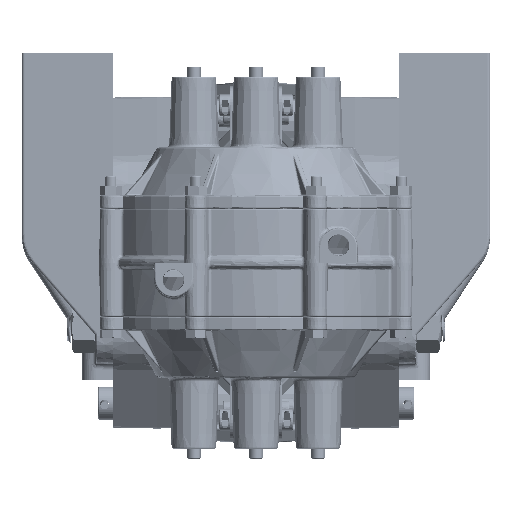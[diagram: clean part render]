
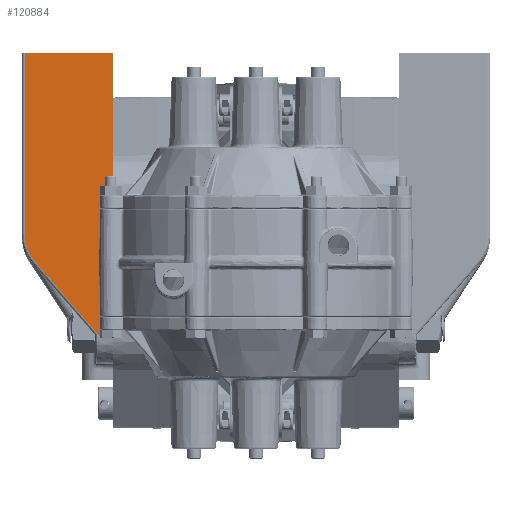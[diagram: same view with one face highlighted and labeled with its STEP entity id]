
A CAD part, left-side view. The second image highlights one B-rep face of the part: STEP entity #120884.
In plain terms, the highlighted planar face has unit normal (-1, 0.026, 0).
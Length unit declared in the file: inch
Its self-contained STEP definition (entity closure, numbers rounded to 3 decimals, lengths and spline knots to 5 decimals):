
#8764 = CARTESIAN_POINT ( 'NONE',  ( -4.59687, 3.227, -1.665 ) ) ;
#26428 = AXIS2_PLACEMENT_3D ( 'NONE', #297892, #91682, #183350 ) ;
#29919 = CARTESIAN_POINT ( 'NONE',  ( -4.544, 5.24614, 4.75 ) ) ;
#35411 = VECTOR ( 'NONE', #177763, 39.37008 ) ;
#36710 = DIRECTION ( 'NONE',  ( 0., 0., 1. ) ) ;
#37980 = VERTEX_POINT ( 'NONE', #130415 ) ;
#42072 = DIRECTION ( 'NONE',  ( -0.017, -0.656, -0.755 ) ) ;
#47081 = EDGE_CURVE ( 'NONE', #153771, #169684, #292290, .T. ) ;
#51711 = DIRECTION ( 'NONE',  ( 0., 0., -1. ) ) ;
#57333 = CARTESIAN_POINT ( 'NONE',  ( -4.544, 5.24614, 0.41521 ) ) ;
#59077 = CARTESIAN_POINT ( 'NONE',  ( -4.59622, 3.252, 4.75 ) ) ;
#72935 = EDGE_LOOP ( 'NONE', ( #254238, #140365, #120883, #263658, #106113, #267972 ) ) ;
#77745 = EDGE_CURVE ( 'NONE', #293860, #153771, #151091, .T. ) ;
#86133 = CARTESIAN_POINT ( 'NONE',  ( -4.59687, 3.227, 4.75 ) ) ;
#91682 = DIRECTION ( 'NONE',  ( -1., 0.026, 0. ) ) ;
#100660 = DIRECTION ( 'NONE',  ( -0.026, -1., 0. ) ) ;
#102080 = EDGE_CURVE ( 'NONE', #37980, #293860, #214931, .T. ) ;
#103939 = VERTEX_POINT ( 'NONE', #240362 ) ;
#106113 = ORIENTED_EDGE ( 'NONE', *, *, #205956, .T. ) ;
#120883 = ORIENTED_EDGE ( 'NONE', *, *, #132099, .T. ) ;
#120884 = ADVANCED_FACE ( 'NONE', ( #180365 ), #272258, .T. ) ;
#127882 = VECTOR ( 'NONE', #42072, 39.37008 ) ;
#129057 = VERTEX_POINT ( 'NONE', #136677 ) ;
#130415 = CARTESIAN_POINT ( 'NONE',  ( -4.58852, 3.54587, -1.665 ) ) ;
#132099 = EDGE_CURVE ( 'NONE', #169684, #103939, #166071, .T. ) ;
#136677 = CARTESIAN_POINT ( 'NONE',  ( -4.55001, 5.01655, 0.02891 ) ) ;
#140365 = ORIENTED_EDGE ( 'NONE', *, *, #47081, .T. ) ;
#149107 = CARTESIAN_POINT ( 'NONE',  ( -4.54609, 5.16624, 0.20132 ) ) ;
#151091 = LINE ( 'NONE', #242872, #243522 ) ;
#153771 = VERTEX_POINT ( 'NONE', #59077 ) ;
#156408 = LINE ( 'NONE', #248233, #127882 ) ;
#166071 = LINE ( 'NONE', #257888, #205766 ) ;
#169684 = VERTEX_POINT ( 'NONE', #29919 ) ;
#177763 = DIRECTION ( 'NONE',  ( 0.026, 1., 0. ) ) ;
#180365 = FACE_OUTER_BOUND ( 'NONE', #72935, .T. ) ;
#183350 = DIRECTION ( 'NONE',  ( 0.026, 1., 0. ) ) ;
#205766 = VECTOR ( 'NONE', #51711, 39.37008 ) ;
#205956 = EDGE_CURVE ( 'NONE', #129057, #37980, #156408, .T. ) ;
#214931 = LINE ( 'NONE', #8764, #248618 ) ;
#229657 = EDGE_CURVE ( 'NONE', #103939, #129057, #250782, .T. ) ;
#240362 = CARTESIAN_POINT ( 'NONE',  ( -4.544, 5.24614, 0.64354 ) ) ;
#240481 = CARTESIAN_POINT ( 'NONE',  ( -4.59622, 3.252, -1.665 ) ) ;
#240877 = CARTESIAN_POINT ( 'NONE',  ( -4.55001, 5.01655, 0.02891 ) ) ;
#242872 = CARTESIAN_POINT ( 'NONE',  ( -4.59622, 3.252, 4.87 ) ) ;
#243522 = VECTOR ( 'NONE', #36710, 39.37008 ) ;
#248233 = CARTESIAN_POINT ( 'NONE',  ( -4.58761, 3.58075, -1.62482 ) ) ;
#248618 = VECTOR ( 'NONE', #100660, 39.37008 ) ;
#250782 =( BOUNDED_CURVE ( )  B_SPLINE_CURVE ( 3, ( #263474, #57333, #149107, #240877 ),
 .UNSPECIFIED., .F., .F. ) 
 B_SPLINE_CURVE_WITH_KNOTS ( ( 4, 4 ),
 ( 3.14159, 3.85657 ),
 .UNSPECIFIED. ) 
 CURVE ( )  GEOMETRIC_REPRESENTATION_ITEM ( )  RATIONAL_B_SPLINE_CURVE ( ( 1., 0.958, 0.958, 1. ) ) 
 REPRESENTATION_ITEM ( '' )  );
#254238 = ORIENTED_EDGE ( 'NONE', *, *, #77745, .T. ) ;
#257888 = CARTESIAN_POINT ( 'NONE',  ( -4.544, 5.24614, 0.64354 ) ) ;
#263474 = CARTESIAN_POINT ( 'NONE',  ( -4.544, 5.24614, 0.64354 ) ) ;
#263658 = ORIENTED_EDGE ( 'NONE', *, *, #229657, .T. ) ;
#267972 = ORIENTED_EDGE ( 'NONE', *, *, #102080, .T. ) ;
#272258 = PLANE ( 'NONE',  #26428 ) ;
#292290 = LINE ( 'NONE', #86133, #35411 ) ;
#293860 = VERTEX_POINT ( 'NONE', #240481 ) ;
#297892 = CARTESIAN_POINT ( 'NONE',  ( -4.59687, 3.227, 4.87 ) ) ;
